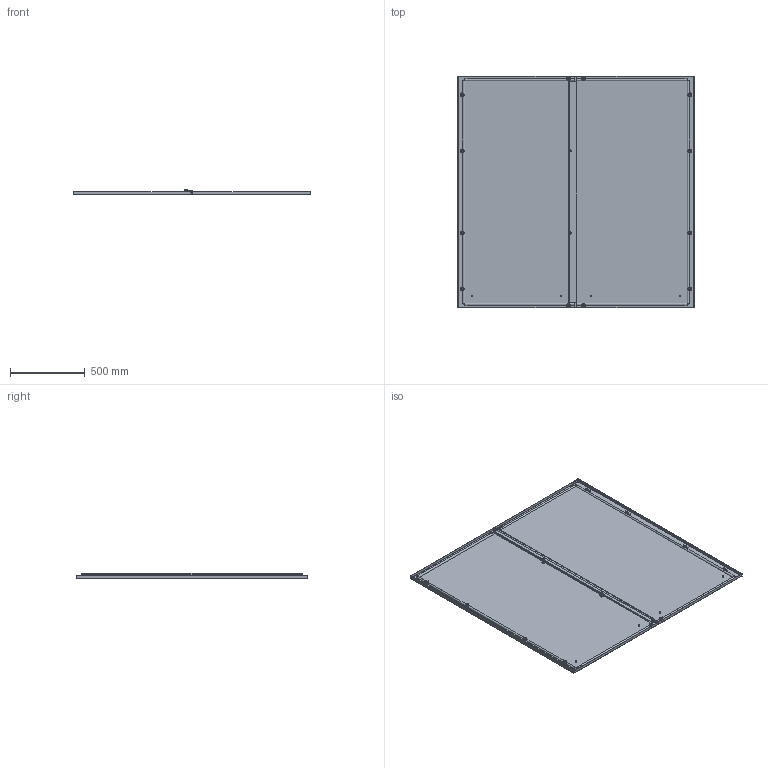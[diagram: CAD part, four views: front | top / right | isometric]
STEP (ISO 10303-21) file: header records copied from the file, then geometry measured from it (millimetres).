
FILE_DESCRIPTION(('Open CASCADE Model'),'2;1');
FILE_NAME('Open CASCADE Shape Model','2025-02-10T17:36:35',('Author'),( 'Open CASCADE'),'Open CASCADE STEP processor 7.8','Open CASCADE 7.8' ,'Unknown');
FILE_SCHEMA(('AUTOMOTIVE_DESIGN { 1 0 10303 214 1 1 1 1 }'));
Length unit declared in the file: millimetre
Products named in the file (19): Compound1; Compound2; Compound3; Solid1; Solid2; Solid3; Compound4; Compound5; Solid4; Compound6; Solid5; Solid6; Solid7; Solid8; Solid9; Solid10; Solid11; Solid12; Solid13
Assembly tree (67 placements, depth 4):
  Compound1
    Compound2
      Compound3
        Solid1
        Solid2  x3
      Solid3
    Compound4
      Compound5
        Solid4
        Solid2  x3
      Solid3
    Compound6  x2
      Solid5
      Solid6
    Solid7
    Solid8  x14
    Solid9  x2
    Solid10  x2
    Solid11  x12
    Solid12  x6
    Solid13  x12
Bounding box: 1594 x 1555 x 36.26 mm (x, y, z)
Volume: 4876988.7 mm3; surface area: 5923028.9 mm2
Topology: 63 solids, 63 shells, 1828 faces, 4488 edges, 2810 vertices
Faces by surface type: plane 1351, cylinder 237, cone 164, torus 44, bspline 28, revolution 4
Full cylindrical faces by diameter (mm): 4.92 x14, 5 x26, 6 x36, 6.5 x2, 7.5 x8, 8 x24, 9 x4, 9.1 x2, 10 x16, 11.57 x14
Entity records: 13696 total; most frequent: CARTESIAN_POINT 2801, DIRECTION 2149, ORIENTED_EDGE 2146, EDGE_CURVE 1073, LINE 763, VECTOR 763, AXIS2_PLACEMENT_3D 692, VERTEX_POINT 673
